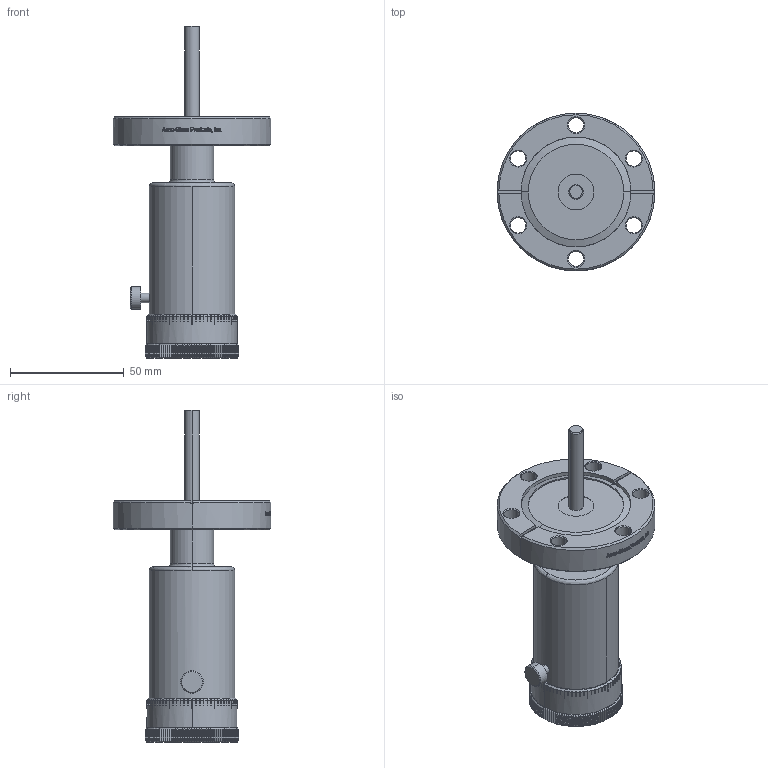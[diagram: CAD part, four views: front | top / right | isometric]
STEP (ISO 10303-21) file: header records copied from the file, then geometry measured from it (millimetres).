
FILE_DESCRIPTION (( 'STEP AP203' ), '1' );
FILE_NAME ('102110.stp', '2019-04-17T20:08:52', ( '' ), ( '' ), 'SwSTEP 2.0', 'SolidWorks 2012', '' );
FILE_SCHEMA (( 'CONFIG_CONTROL_DESIGN' ));
Products named in the file (1): 102110
Bounding box: 69.34 x 69.34 x 145.9 mm (x, y, z)
Volume: 136790.2 mm3; surface area: 25349.1 mm2
Topology: 1 solids, 1 shells, 962 faces, 2749 edges, 1826 vertices
Faces by surface type: plane 483, cylinder 292, bspline 145, cone 42
Entity records: 59525 total; most frequent: CARTESIAN_POINT 36094, ORIENTED_EDGE 5498, DIRECTION 4063, EDGE_CURVE 2749, VERTEX_POINT 1826, AXIS2_PLACEMENT_3D 1500, VECTOR 1063, LINE 1063
